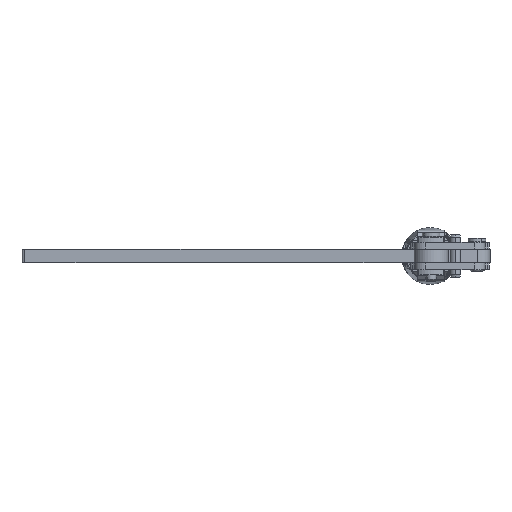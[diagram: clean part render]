
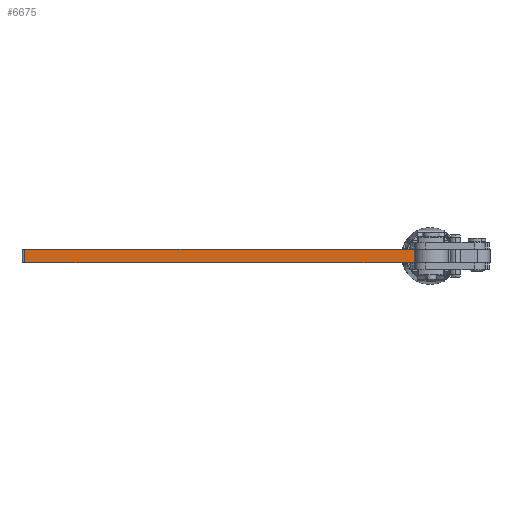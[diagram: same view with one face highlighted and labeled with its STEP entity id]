
A CAD part, front view. The second image highlights one B-rep face of the part: STEP entity #6675.
In plain terms, the highlighted planar face has unit normal (0, -1, 0).
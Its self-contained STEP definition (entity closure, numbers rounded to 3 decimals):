
#189 = DIRECTION ( 'NONE',  ( 0., 0., 1. ) ) ;
#729 = CARTESIAN_POINT ( 'NONE',  ( 4460.415, 2376.489, -0.2 ) ) ;
#874 = DIRECTION ( 'NONE',  ( -1., 0., 0. ) ) ;
#1329 = ORIENTED_EDGE ( 'NONE', *, *, #10863, .F. ) ;
#1486 = PLANE ( 'NONE',  #10335 ) ;
#1652 = LINE ( 'NONE', #12869, #15549 ) ;
#1778 = EDGE_CURVE ( 'NONE', #23057, #6041, #1652, .T. ) ;
#2558 = VECTOR ( 'NONE', #12751, 1000. ) ;
#2588 = EDGE_LOOP ( 'NONE', ( #22564, #11826, #4741, #1329, #17673, #7517, #5455, #23791, #11614, #23443, #23874, #3852 ) ) ;
#3776 = CARTESIAN_POINT ( 'NONE',  ( 4510.215, 2376.489, -0.2 ) ) ;
#3852 = ORIENTED_EDGE ( 'NONE', *, *, #12094, .F. ) ;
#4106 = LINE ( 'NONE', #9379, #5416 ) ;
#4655 = EDGE_CURVE ( 'NONE', #6919, #7869, #22390, .T. ) ;
#4662 = LINE ( 'NONE', #23378, #7473 ) ;
#4733 = CARTESIAN_POINT ( 'NONE',  ( 4510.415, 2376.489, 0. ) ) ;
#4741 = ORIENTED_EDGE ( 'NONE', *, *, #12418, .F. ) ;
#4797 = CARTESIAN_POINT ( 'NONE',  ( 4559.415, 2376.489, -5. ) ) ;
#4881 = VECTOR ( 'NONE', #18122, 1000. ) ;
#5416 = VECTOR ( 'NONE', #11568, 1000. ) ;
#5455 = ORIENTED_EDGE ( 'NONE', *, *, #14016, .T. ) ;
#5512 = VECTOR ( 'NONE', #5585, 1000. ) ;
#5585 = DIRECTION ( 'NONE',  ( 0., 0., 1. ) ) ;
#5817 = LINE ( 'NONE', #16636, #5512 ) ;
#5888 = CARTESIAN_POINT ( 'NONE',  ( 4559.415, 2376.489, -5. ) ) ;
#5910 = VERTEX_POINT ( 'NONE', #3776 ) ;
#6041 = VERTEX_POINT ( 'NONE', #4733 ) ;
#6307 = VERTEX_POINT ( 'NONE', #13590 ) ;
#6675 = ADVANCED_FACE ( 'NONE', ( #15867 ), #1486, .T. ) ;
#6919 = VERTEX_POINT ( 'NONE', #729 ) ;
#7120 = VERTEX_POINT ( 'NONE', #17645 ) ;
#7473 = VECTOR ( 'NONE', #874, 1000. ) ;
#7517 = ORIENTED_EDGE ( 'NONE', *, *, #13985, .T. ) ;
#7766 = LINE ( 'NONE', #15032, #18785 ) ;
#7869 = VERTEX_POINT ( 'NONE', #11743 ) ;
#8079 = VECTOR ( 'NONE', #24025, 1000. ) ;
#8494 = CARTESIAN_POINT ( 'NONE',  ( 4412.971, 2376.489, -5. ) ) ;
#8632 = VECTOR ( 'NONE', #13279, 1000. ) ;
#8777 = LINE ( 'NONE', #17729, #23346 ) ;
#9240 = DIRECTION ( 'NONE',  ( 1., 0., 0. ) ) ;
#9379 = CARTESIAN_POINT ( 'NONE',  ( 4559.415, 2376.489, -0.2 ) ) ;
#9552 = EDGE_CURVE ( 'NONE', #5910, #23057, #4106, .T. ) ;
#9954 = VERTEX_POINT ( 'NONE', #19143 ) ;
#10335 = AXIS2_PLACEMENT_3D ( 'NONE', #4797, #19870, #15752 ) ;
#10512 = VERTEX_POINT ( 'NONE', #18586 ) ;
#10752 = LINE ( 'NONE', #17867, #4881 ) ;
#10863 = EDGE_CURVE ( 'NONE', #20609, #13063, #7766, .T. ) ;
#11568 = DIRECTION ( 'NONE',  ( 1., 0., 0. ) ) ;
#11614 = ORIENTED_EDGE ( 'NONE', *, *, #1778, .F. ) ;
#11743 = CARTESIAN_POINT ( 'NONE',  ( 4460.415, 2376.489, 0. ) ) ;
#11826 = ORIENTED_EDGE ( 'NONE', *, *, #18933, .T. ) ;
#12094 = EDGE_CURVE ( 'NONE', #7869, #10512, #10752, .T. ) ;
#12418 = EDGE_CURVE ( 'NONE', #13063, #9954, #24031, .T. ) ;
#12751 = DIRECTION ( 'NONE',  ( 0., 0., -1. ) ) ;
#12869 = CARTESIAN_POINT ( 'NONE',  ( 4510.415, 2376.489, -5. ) ) ;
#13063 = VERTEX_POINT ( 'NONE', #14067 ) ;
#13157 = CARTESIAN_POINT ( 'NONE',  ( 4460.415, 2376.489, -5. ) ) ;
#13265 = EDGE_CURVE ( 'NONE', #10512, #5910, #14797, .T. ) ;
#13279 = DIRECTION ( 'NONE',  ( 0., 0., 1. ) ) ;
#13296 = DIRECTION ( 'NONE',  ( 0., 0., 1. ) ) ;
#13590 = CARTESIAN_POINT ( 'NONE',  ( 4559.415, 2376.489, 0. ) ) ;
#13985 = EDGE_CURVE ( 'NONE', #16902, #7120, #20582, .T. ) ;
#14016 = EDGE_CURVE ( 'NONE', #7120, #6307, #17157, .T. ) ;
#14067 = CARTESIAN_POINT ( 'NONE',  ( 4460.215, 2376.489, 0. ) ) ;
#14331 = DIRECTION ( 'NONE',  ( 1., 0., 0. ) ) ;
#14797 = LINE ( 'NONE', #16621, #8079 ) ;
#15032 = CARTESIAN_POINT ( 'NONE',  ( 4559.415, 2376.489, 0. ) ) ;
#15549 = VECTOR ( 'NONE', #189, 1000. ) ;
#15752 = DIRECTION ( 'NONE',  ( 0., 0., -1. ) ) ;
#15867 = FACE_OUTER_BOUND ( 'NONE', #2588, .T. ) ;
#16621 = CARTESIAN_POINT ( 'NONE',  ( 4510.215, 2376.489, -5. ) ) ;
#16636 = CARTESIAN_POINT ( 'NONE',  ( 4412.971, 2376.489, -5. ) ) ;
#16902 = VERTEX_POINT ( 'NONE', #8494 ) ;
#17039 = DIRECTION ( 'NONE',  ( 1., 0., 0. ) ) ;
#17130 = CARTESIAN_POINT ( 'NONE',  ( 4510.415, 2376.489, -0.2 ) ) ;
#17157 = LINE ( 'NONE', #5888, #22033 ) ;
#17645 = CARTESIAN_POINT ( 'NONE',  ( 4559.415, 2376.489, -5. ) ) ;
#17673 = ORIENTED_EDGE ( 'NONE', *, *, #18369, .F. ) ;
#17729 = CARTESIAN_POINT ( 'NONE',  ( 4559.415, 2376.489, 0. ) ) ;
#17867 = CARTESIAN_POINT ( 'NONE',  ( 4559.415, 2376.489, 0. ) ) ;
#18118 = EDGE_CURVE ( 'NONE', #6041, #6307, #8777, .T. ) ;
#18122 = DIRECTION ( 'NONE',  ( 1., 0., 0. ) ) ;
#18369 = EDGE_CURVE ( 'NONE', #16902, #20609, #5817, .T. ) ;
#18586 = CARTESIAN_POINT ( 'NONE',  ( 4510.215, 2376.489, 0. ) ) ;
#18762 = CARTESIAN_POINT ( 'NONE',  ( 4412.971, 2376.489, -5. ) ) ;
#18785 = VECTOR ( 'NONE', #9240, 1000. ) ;
#18933 = EDGE_CURVE ( 'NONE', #6919, #9954, #4662, .T. ) ;
#19143 = CARTESIAN_POINT ( 'NONE',  ( 4460.215, 2376.489, -0.2 ) ) ;
#19870 = DIRECTION ( 'NONE',  ( 0., -1., 0. ) ) ;
#20276 = CARTESIAN_POINT ( 'NONE',  ( 4460.215, 2376.489, -5. ) ) ;
#20582 = LINE ( 'NONE', #18762, #21650 ) ;
#20609 = VERTEX_POINT ( 'NONE', #23311 ) ;
#21650 = VECTOR ( 'NONE', #17039, 1000. ) ;
#22033 = VECTOR ( 'NONE', #13296, 1000. ) ;
#22390 = LINE ( 'NONE', #13157, #8632 ) ;
#22564 = ORIENTED_EDGE ( 'NONE', *, *, #4655, .F. ) ;
#23057 = VERTEX_POINT ( 'NONE', #17130 ) ;
#23311 = CARTESIAN_POINT ( 'NONE',  ( 4412.971, 2376.489, 0. ) ) ;
#23346 = VECTOR ( 'NONE', #14331, 1000. ) ;
#23378 = CARTESIAN_POINT ( 'NONE',  ( 4559.415, 2376.489, -0.2 ) ) ;
#23443 = ORIENTED_EDGE ( 'NONE', *, *, #9552, .F. ) ;
#23791 = ORIENTED_EDGE ( 'NONE', *, *, #18118, .F. ) ;
#23874 = ORIENTED_EDGE ( 'NONE', *, *, #13265, .F. ) ;
#24025 = DIRECTION ( 'NONE',  ( 0., 0., -1. ) ) ;
#24031 = LINE ( 'NONE', #20276, #2558 ) ;
